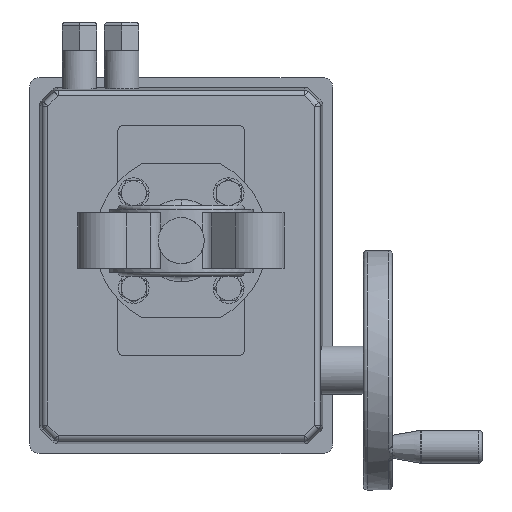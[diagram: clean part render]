
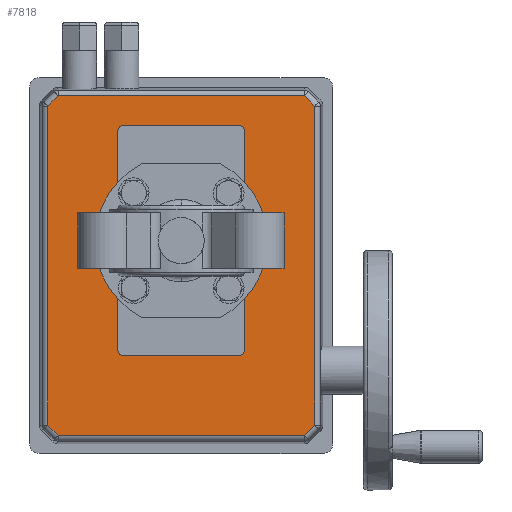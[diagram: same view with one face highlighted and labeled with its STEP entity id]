
A CAD part, front view. The second image highlights one B-rep face of the part: STEP entity #7818.
In plain terms, the highlighted planar face has unit normal (0, -1, 0).
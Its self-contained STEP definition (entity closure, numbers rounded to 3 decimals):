
#169 = VERTEX_POINT ( 'NONE', #19180 ) ;
#550 = DIRECTION ( 'NONE',  ( 1., 0., 0. ) ) ;
#569 = LINE ( 'NONE', #19187, #2240 ) ;
#641 = ORIENTED_EDGE ( 'NONE', *, *, #24772, .T. ) ;
#835 = VECTOR ( 'NONE', #16616, 1000. ) ;
#1023 = ORIENTED_EDGE ( 'NONE', *, *, #12114, .F. ) ;
#1088 = CIRCLE ( 'NONE', #4569, 3. ) ;
#1328 = PLANE ( 'NONE',  #26098 ) ;
#1461 = EDGE_CURVE ( 'NONE', #9737, #8147, #23546, .T. ) ;
#1622 = CARTESIAN_POINT ( 'NONE',  ( -60., -45., 30. ) ) ;
#1682 = LINE ( 'NONE', #9949, #6721 ) ;
#1801 = CIRCLE ( 'NONE', #24318, 3. ) ;
#2140 = CARTESIAN_POINT ( 'NONE',  ( -57., -45., 33. ) ) ;
#2187 = CARTESIAN_POINT ( 'NONE',  ( 101.531, -45., 64.149 ) ) ;
#2240 = VECTOR ( 'NONE', #6800, 1000. ) ;
#2796 = ORIENTED_EDGE ( 'NONE', *, *, #15922, .T. ) ;
#2875 = ORIENTED_EDGE ( 'NONE', *, *, #26206, .T. ) ;
#3100 = LINE ( 'NONE', #13144, #25038 ) ;
#3354 = DIRECTION ( 'NONE',  ( 0., 1., 0. ) ) ;
#3468 = CARTESIAN_POINT ( 'NONE',  ( 57., -45., -33. ) ) ;
#3551 = CARTESIAN_POINT ( 'NONE',  ( 60., -45., -30. ) ) ;
#3717 = DIRECTION ( 'NONE',  ( 0.707, 0., -0.707 ) ) ;
#3852 = VECTOR ( 'NONE', #17113, 1000. ) ;
#4005 = CARTESIAN_POINT ( 'NONE',  ( -75.531, -45., -65.349 ) ) ;
#4172 = EDGE_CURVE ( 'NONE', #169, #6077, #1682, .T. ) ;
#4198 = ORIENTED_EDGE ( 'NONE', *, *, #16772, .F. ) ;
#4412 = VERTEX_POINT ( 'NONE', #2187 ) ;
#4569 = AXIS2_PLACEMENT_3D ( 'NONE', #7505, #15802, #20655 ) ;
#5069 = CARTESIAN_POINT ( 'NONE',  ( -60., -45., -30. ) ) ;
#5550 = DIRECTION ( 'NONE',  ( 0., 1., 0. ) ) ;
#5624 = VECTOR ( 'NONE', #24567, 1000. ) ;
#5667 = CARTESIAN_POINT ( 'NONE',  ( -57., -45., -30. ) ) ;
#6077 = VERTEX_POINT ( 'NONE', #8523 ) ;
#6184 = CARTESIAN_POINT ( 'NONE',  ( 0., -45., 33. ) ) ;
#6234 = DIRECTION ( 'NONE',  ( 0., 0., 1. ) ) ;
#6410 = AXIS2_PLACEMENT_3D ( 'NONE', #20871, #22766, #6234 ) ;
#6522 = ORIENTED_EDGE ( 'NONE', *, *, #4172, .T. ) ;
#6721 = VECTOR ( 'NONE', #3717, 1000. ) ;
#6771 = VECTOR ( 'NONE', #550, 1000. ) ;
#6800 = DIRECTION ( 'NONE',  ( 0.707, 0., 0.707 ) ) ;
#6896 = LINE ( 'NONE', #12866, #3852 ) ;
#7470 = CARTESIAN_POINT ( 'NONE',  ( 60., -45., 30. ) ) ;
#7505 = CARTESIAN_POINT ( 'NONE',  ( 57., -45., -30. ) ) ;
#7602 = CARTESIAN_POINT ( 'NONE',  ( 101.531, -45., 0. ) ) ;
#7818 = ADVANCED_FACE ( 'NONE', ( #7836, #16143 ), #1328, .F. ) ;
#7836 = FACE_OUTER_BOUND ( 'NONE', #16762, .T. ) ;
#8055 = DIRECTION ( 'NONE',  ( 0., 0., -1. ) ) ;
#8147 = VERTEX_POINT ( 'NONE', #24484 ) ;
#8523 = CARTESIAN_POINT ( 'NONE',  ( -70.149, -45., -69.531 ) ) ;
#8527 = VECTOR ( 'NONE', #8055, 1000. ) ;
#9081 = CARTESIAN_POINT ( 'NONE',  ( 0., -45., -33. ) ) ;
#9438 = VERTEX_POINT ( 'NONE', #3551 ) ;
#9737 = VERTEX_POINT ( 'NONE', #25232 ) ;
#9822 = CARTESIAN_POINT ( 'NONE',  ( -57., -45., 30. ) ) ;
#9949 = CARTESIAN_POINT ( 'NONE',  ( -69.84, -45., -69.84 ) ) ;
#10173 = VECTOR ( 'NONE', #15018, 1000. ) ;
#10335 = LINE ( 'NONE', #7602, #5624 ) ;
#10485 = VERTEX_POINT ( 'NONE', #7470 ) ;
#11033 = CARTESIAN_POINT ( 'NONE',  ( 82.84, -45., 82.84 ) ) ;
#11305 = EDGE_CURVE ( 'NONE', #9438, #24556, #1088, .T. ) ;
#11661 = VERTEX_POINT ( 'NONE', #17985 ) ;
#12114 = EDGE_CURVE ( 'NONE', #11661, #24556, #21164, .T. ) ;
#12483 = ORIENTED_EDGE ( 'NONE', *, *, #11305, .T. ) ;
#12866 = CARTESIAN_POINT ( 'NONE',  ( 60., -45., 0. ) ) ;
#12898 = CIRCLE ( 'NONE', #6410, 3. ) ;
#13144 = CARTESIAN_POINT ( 'NONE',  ( -76.38, -45., 63.301 ) ) ;
#13255 = ORIENTED_EDGE ( 'NONE', *, *, #1461, .T. ) ;
#13418 = CIRCLE ( 'NONE', #19076, 3. ) ;
#13558 = CARTESIAN_POINT ( 'NONE',  ( 0., -45., 0. ) ) ;
#13597 = EDGE_CURVE ( 'NONE', #25512, #10485, #12898, .T. ) ;
#13794 = EDGE_CURVE ( 'NONE', #8147, #23662, #3100, .T. ) ;
#13816 = DIRECTION ( 'NONE',  ( 0., 0., 1. ) ) ;
#14230 = ORIENTED_EDGE ( 'NONE', *, *, #23058, .T. ) ;
#14479 = ORIENTED_EDGE ( 'NONE', *, *, #17951, .T. ) ;
#15018 = DIRECTION ( 'NONE',  ( -1., 0., 0. ) ) ;
#15296 = CARTESIAN_POINT ( 'NONE',  ( 57., -45., 33. ) ) ;
#15415 = VERTEX_POINT ( 'NONE', #21491 ) ;
#15621 = CARTESIAN_POINT ( 'NONE',  ( -75.531, -45., 64.149 ) ) ;
#15802 = DIRECTION ( 'NONE',  ( 0., 1., 0. ) ) ;
#15922 = EDGE_CURVE ( 'NONE', #6077, #24374, #16592, .T. ) ;
#16143 = FACE_BOUND ( 'NONE', #26384, .T. ) ;
#16190 = DIRECTION ( 'NONE',  ( 1., 0., 0. ) ) ;
#16592 = LINE ( 'NONE', #24297, #20190 ) ;
#16616 = DIRECTION ( 'NONE',  ( 0., 0., -1. ) ) ;
#16633 = ORIENTED_EDGE ( 'NONE', *, *, #13794, .T. ) ;
#16748 = ORIENTED_EDGE ( 'NONE', *, *, #24650, .T. ) ;
#16762 = EDGE_LOOP ( 'NONE', ( #14479, #6522, #2796, #2875, #19288, #641, #13255, #16633 ) ) ;
#16772 = EDGE_CURVE ( 'NONE', #19733, #21626, #18931, .T. ) ;
#17113 = DIRECTION ( 'NONE',  ( 0., 0., -1. ) ) ;
#17220 = CARTESIAN_POINT ( 'NONE',  ( -71.349, -45., 69.531 ) ) ;
#17454 = DIRECTION ( 'NONE',  ( -0.707, 0., 0.707 ) ) ;
#17671 = EDGE_CURVE ( 'NONE', #10485, #9438, #6896, .T. ) ;
#17951 = EDGE_CURVE ( 'NONE', #23662, #169, #22554, .T. ) ;
#17985 = CARTESIAN_POINT ( 'NONE',  ( -57., -45., -33. ) ) ;
#18467 = EDGE_CURVE ( 'NONE', #15415, #4412, #10335, .T. ) ;
#18539 = CARTESIAN_POINT ( 'NONE',  ( -60., -45., 0. ) ) ;
#18931 = LINE ( 'NONE', #18539, #8527 ) ;
#19076 = AXIS2_PLACEMENT_3D ( 'NONE', #9822, #26391, #22976 ) ;
#19180 = CARTESIAN_POINT ( 'NONE',  ( -75.531, -45., -64.149 ) ) ;
#19187 = CARTESIAN_POINT ( 'NONE',  ( 82.84, -45., -82.84 ) ) ;
#19288 = ORIENTED_EDGE ( 'NONE', *, *, #18467, .T. ) ;
#19476 = LINE ( 'NONE', #11033, #23810 ) ;
#19733 = VERTEX_POINT ( 'NONE', #1622 ) ;
#20190 = VECTOR ( 'NONE', #16190, 1000. ) ;
#20276 = VERTEX_POINT ( 'NONE', #2140 ) ;
#20655 = DIRECTION ( 'NONE',  ( 0., 0., 1. ) ) ;
#20682 = VECTOR ( 'NONE', #24344, 1000. ) ;
#20871 = CARTESIAN_POINT ( 'NONE',  ( 57., -45., 30. ) ) ;
#21134 = DIRECTION ( 'NONE',  ( -0.707, 0., -0.707 ) ) ;
#21164 = LINE ( 'NONE', #9081, #6771 ) ;
#21491 = CARTESIAN_POINT ( 'NONE',  ( 101.531, -45., -64.149 ) ) ;
#21493 = ORIENTED_EDGE ( 'NONE', *, *, #21872, .T. ) ;
#21626 = VERTEX_POINT ( 'NONE', #5069 ) ;
#21872 = EDGE_CURVE ( 'NONE', #11661, #21626, #1801, .T. ) ;
#22554 = LINE ( 'NONE', #4005, #835 ) ;
#22766 = DIRECTION ( 'NONE',  ( 0., 1., 0. ) ) ;
#22976 = DIRECTION ( 'NONE',  ( 0., 0., 1. ) ) ;
#23058 = EDGE_CURVE ( 'NONE', #20276, #25512, #24758, .T. ) ;
#23258 = ORIENTED_EDGE ( 'NONE', *, *, #13597, .T. ) ;
#23546 = LINE ( 'NONE', #17220, #10173 ) ;
#23662 = VERTEX_POINT ( 'NONE', #15621 ) ;
#23810 = VECTOR ( 'NONE', #17454, 1000. ) ;
#24094 = DIRECTION ( 'NONE',  ( 0., 0., 1. ) ) ;
#24102 = CARTESIAN_POINT ( 'NONE',  ( 96.149, -45., -69.531 ) ) ;
#24297 = CARTESIAN_POINT ( 'NONE',  ( 0., -45., -69.531 ) ) ;
#24318 = AXIS2_PLACEMENT_3D ( 'NONE', #5667, #3354, #24094 ) ;
#24344 = DIRECTION ( 'NONE',  ( 1., 0., 0. ) ) ;
#24374 = VERTEX_POINT ( 'NONE', #24102 ) ;
#24456 = ORIENTED_EDGE ( 'NONE', *, *, #17671, .T. ) ;
#24484 = CARTESIAN_POINT ( 'NONE',  ( -70.149, -45., 69.531 ) ) ;
#24556 = VERTEX_POINT ( 'NONE', #3468 ) ;
#24567 = DIRECTION ( 'NONE',  ( 0., 0., 1. ) ) ;
#24650 = EDGE_CURVE ( 'NONE', #19733, #20276, #13418, .T. ) ;
#24758 = LINE ( 'NONE', #6184, #20682 ) ;
#24772 = EDGE_CURVE ( 'NONE', #4412, #9737, #19476, .T. ) ;
#25038 = VECTOR ( 'NONE', #21134, 1000. ) ;
#25232 = CARTESIAN_POINT ( 'NONE',  ( 96.149, -45., 69.531 ) ) ;
#25512 = VERTEX_POINT ( 'NONE', #15296 ) ;
#26098 = AXIS2_PLACEMENT_3D ( 'NONE', #13558, #5550, #13816 ) ;
#26206 = EDGE_CURVE ( 'NONE', #24374, #15415, #569, .T. ) ;
#26384 = EDGE_LOOP ( 'NONE', ( #4198, #16748, #14230, #23258, #24456, #12483, #1023, #21493 ) ) ;
#26391 = DIRECTION ( 'NONE',  ( 0., 1., 0. ) ) ;
